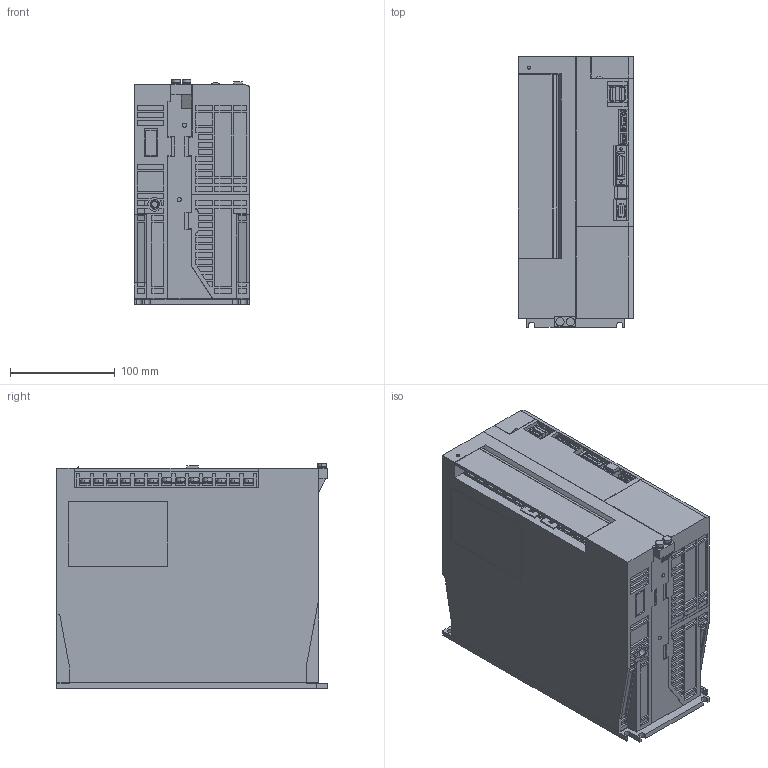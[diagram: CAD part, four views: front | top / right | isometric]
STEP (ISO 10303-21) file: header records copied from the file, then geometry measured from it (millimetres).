
FILE_DESCRIPTION (( 'STEP AP203' ), '1' );
FILE_NAME ('sgd7s_330a10a.STEP', '2015-09-18T08:28:47', ( '匠エンジニアリング山之内' ), ( 'TAKUMI-Engniaring' ), 'SwSTEP 2.0', 'SolidWorks 2006303', '' );
FILE_SCHEMA (( 'CONFIG_CONTROL_DESIGN' ));
Length unit declared in the file: millimetre
Products named in the file (7): sgd7s_330a10a_connector; sgd7s_330a10a; sgd7s_330a10a_base; sgd7s_330a10a_cover; sgd7s_330a10a_cover2; sgd7s_330a10a_cover3; sgd7s_330a10a_terminal
Assembly tree (8 placements, depth 2):
  sgd7s_330a10a
    sgd7s_330a10a_cover3
    sgd7s_330a10a_terminal  x2
    sgd7s_330a10a_cover2  x2
    sgd7s_330a10a_connector
    sgd7s_330a10a_base
    sgd7s_330a10a_cover
Bounding box: 110.5 x 258 x 214.6 mm (x, y, z)
Volume: 5481505.6 mm3; surface area: 292539.7 mm2
Topology: 8 solids, 8 shells, 2150 faces, 5549 edges, 3668 vertices
Faces by surface type: plane 1830, cylinder 315, cone 4, sphere 1
Entity records: 64096 total; most frequent: CARTESIAN_POINT 11145, ORIENTED_EDGE 10870, DIRECTION 10317, EDGE_CURVE 5435, LINE 4789, VECTOR 4789, VERTEX_POINT 3592, AXIS2_PLACEMENT_3D 2764
